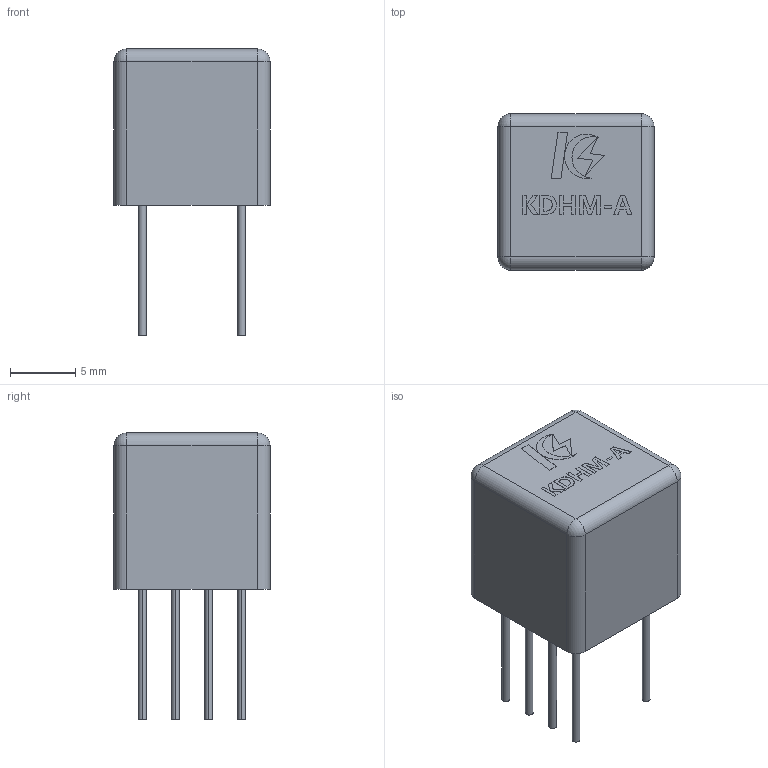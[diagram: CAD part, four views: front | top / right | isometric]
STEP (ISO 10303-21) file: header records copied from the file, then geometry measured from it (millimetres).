
FILE_DESCRIPTION (( 'STEP AP214' ), '1' );
FILE_NAME ('KDHM-A.STEP', '2026-08-12T00:43:56', ( '' ), ( '' ), 'SwSTEP 2.0', 'SolidWorks 2024', '' );
FILE_SCHEMA (( 'AUTOMOTIVE_DESIGN' ));
Length unit declared in the file: millimetre
Products named in the file (1): KDHM-A
Bounding box: 12 x 12 x 22.01 mm (x, y, z)
Volume: 1725.2 mm3; surface area: 935.2 mm2
Topology: 1 solids, 1 shells, 137 faces, 346 edges, 224 vertices
Faces by surface type: plane 95, cylinder 24, bspline 14, sphere 4
Entity records: 6026 total; most frequent: CARTESIAN_POINT 1270, ORIENTED_EDGE 684, DIRECTION 610, EDGE_CURVE 342, LINE 266, VECTOR 266, VERTEX_POINT 224, AXIS2_PLACEMENT_3D 172
